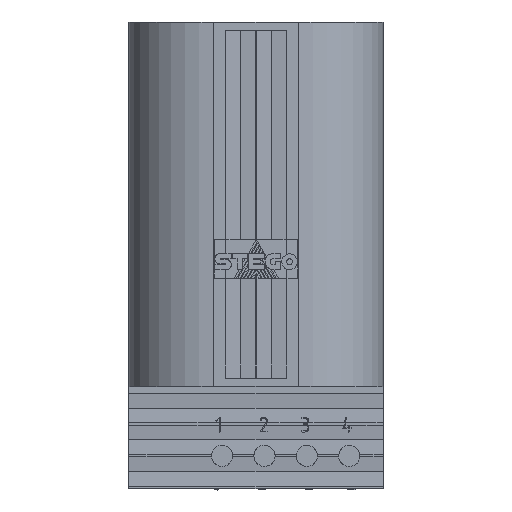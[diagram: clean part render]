
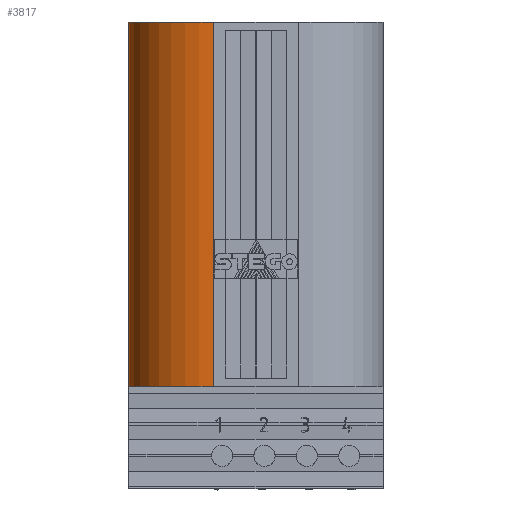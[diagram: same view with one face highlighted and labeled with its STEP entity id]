
A CAD part, top view. The second image highlights one B-rep face of the part: STEP entity #3817.
In plain terms, the highlighted cylindrical face has radius 20 mm (diameter 40 mm), a partial arc.
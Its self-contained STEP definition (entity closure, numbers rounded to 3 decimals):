
#2013 = CARTESIAN_POINT ( 'NONE',  ( 20., 43.5, 86. ) ) ;
#2834 = VERTEX_POINT ( 'NONE', #27353 ) ;
#3817 = ADVANCED_FACE ( 'NONE', ( #4285 ), #31635, .T. ) ;
#4285 = FACE_OUTER_BOUND ( 'NONE', #5982, .T. ) ;
#4406 = CARTESIAN_POINT ( 'NONE',  ( 0., 43.5, 66. ) ) ;
#5603 = DIRECTION ( 'NONE',  ( 0., -1., 0. ) ) ;
#5756 = AXIS2_PLACEMENT_3D ( 'NONE', #33660, #12050, #31164 ) ;
#5982 = EDGE_LOOP ( 'NONE', ( #33911, #30446, #29263, #19761 ) ) ;
#6102 = LINE ( 'NONE', #20080, #33469 ) ;
#7926 = EDGE_CURVE ( 'NONE', #27930, #19304, #6102, .T. ) ;
#11128 = CARTESIAN_POINT ( 'NONE',  ( 20., 43.5, 66. ) ) ;
#11184 = CARTESIAN_POINT ( 'NONE',  ( 0., 43.5, 66. ) ) ;
#12050 = DIRECTION ( 'NONE',  ( 0., 1., 0. ) ) ;
#12410 = LINE ( 'NONE', #11184, #19616 ) ;
#13888 = DIRECTION ( 'NONE',  ( 0., 0., -1. ) ) ;
#13907 = AXIS2_PLACEMENT_3D ( 'NONE', #21925, #5603, #24688 ) ;
#16059 = AXIS2_PLACEMENT_3D ( 'NONE', #11128, #30217, #13888 ) ;
#17327 = CIRCLE ( 'NONE', #13907, 20. ) ;
#19304 = VERTEX_POINT ( 'NONE', #34776 ) ;
#19616 = VECTOR ( 'NONE', #24744, 1000. ) ;
#19761 = ORIENTED_EDGE ( 'NONE', *, *, #31416, .F. ) ;
#20080 = CARTESIAN_POINT ( 'NONE',  ( 20., -42.5, 86. ) ) ;
#21509 = EDGE_CURVE ( 'NONE', #29802, #27930, #32905, .T. ) ;
#21925 = CARTESIAN_POINT ( 'NONE',  ( 20., -42.5, 66. ) ) ;
#22941 = DIRECTION ( 'NONE',  ( 0., -1., 0. ) ) ;
#24688 = DIRECTION ( 'NONE',  ( 0., 0., 1. ) ) ;
#24744 = DIRECTION ( 'NONE',  ( 0., 1., 0. ) ) ;
#27353 = CARTESIAN_POINT ( 'NONE',  ( 0., -42.5, 66. ) ) ;
#27559 = EDGE_CURVE ( 'NONE', #19304, #2834, #17327, .T. ) ;
#27930 = VERTEX_POINT ( 'NONE', #2013 ) ;
#29263 = ORIENTED_EDGE ( 'NONE', *, *, #21509, .F. ) ;
#29802 = VERTEX_POINT ( 'NONE', #4406 ) ;
#30217 = DIRECTION ( 'NONE',  ( 0., 1., 0. ) ) ;
#30446 = ORIENTED_EDGE ( 'NONE', *, *, #7926, .F. ) ;
#31164 = DIRECTION ( 'NONE',  ( 0., 0., 1. ) ) ;
#31416 = EDGE_CURVE ( 'NONE', #2834, #29802, #12410, .T. ) ;
#31635 = CYLINDRICAL_SURFACE ( 'NONE', #5756, 20. ) ;
#32905 = CIRCLE ( 'NONE', #16059, 20. ) ;
#33469 = VECTOR ( 'NONE', #22941, 1000. ) ;
#33660 = CARTESIAN_POINT ( 'NONE',  ( 20., -42.5, 66. ) ) ;
#33911 = ORIENTED_EDGE ( 'NONE', *, *, #27559, .F. ) ;
#34776 = CARTESIAN_POINT ( 'NONE',  ( 20., -42.5, 86. ) ) ;
